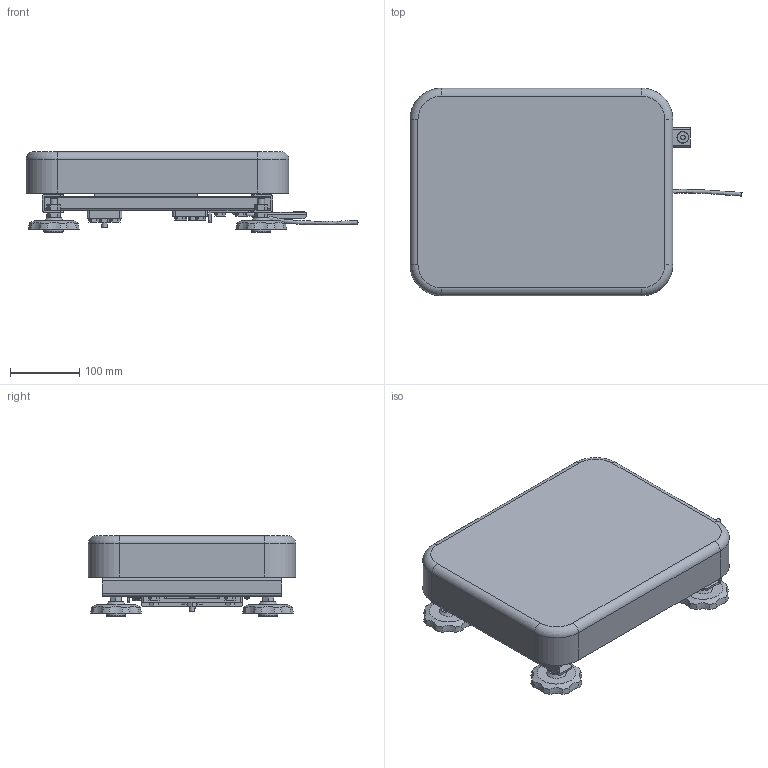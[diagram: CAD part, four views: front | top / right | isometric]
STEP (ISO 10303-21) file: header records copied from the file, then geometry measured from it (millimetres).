
FILE_DESCRIPTION(/* description */ ('Unknown'),/* implementation_level */ '2;1');
FILE_NAME(/* name */ 'SCB-17',/* time_stamp */ '2024-04-04T15:55:15+09:00',/* author */ ('Unknown'),/* organization */ ('Unknown'),/* preprocessor_version */ 'ST-DEVELOPER v16.7',/* originating_system */ 'DEX',/* authorisation */ $);
FILE_SCHEMA (('AUTOMOTIVE_DESIGN {1 0 10303 214 3 1 1}'));
Length unit declared in the file: millimetre
Products named in the file (3): SCB-17; 1
Assembly tree (5 placements, depth 2):
  SCB-17
    SCB-17
    1  x4
Bounding box: 480.01 x 300 x 117 mm (x, y, z)
Volume: 7871782.1 mm3; surface area: 547031.4 mm2
Topology: 5 solids, 5 shells, 613 faces, 1561 edges, 1011 vertices
Faces by surface type: plane 373, cone 125, cylinder 97, torus 12, sphere 4, bspline 2
Full cylindrical faces by diameter (mm): 7 x1, 7.6 x4, 8 x2, 8.5 x4, 9 x4, 10 x4, 11 x4, 13.8 x1, 17 x1, 28 x4
Entity records: 18303 total; most frequent: CARTESIAN_POINT 3299, ORIENTED_EDGE 2358, DIRECTION 2346, EDGE_CURVE 1179, LINE 872, VECTOR 872, VERTEX_POINT 787, AXIS2_PLACEMENT_3D 737
